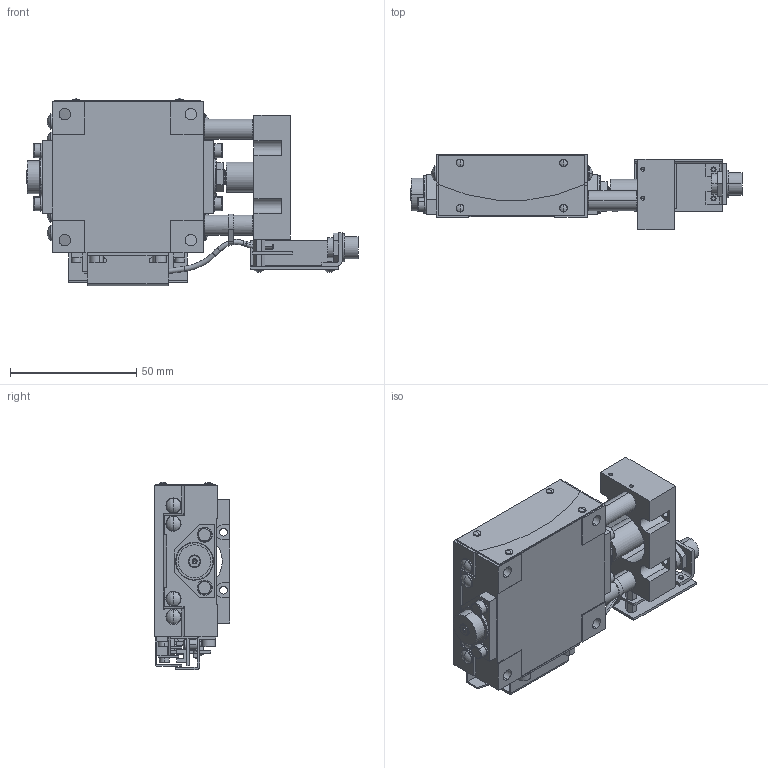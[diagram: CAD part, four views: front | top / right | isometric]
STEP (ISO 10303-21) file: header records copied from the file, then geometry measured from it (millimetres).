
FILE_DESCRIPTION (( 'STEP AP203' ), '1' );
FILE_NAME ('KGB06050MV-LP28.STEP', '2024-03-25T09:14:43', ( '' ), ( '' ), 'SwSTEP 2.0', 'SolidWorks 2017', '' );
FILE_SCHEMA (( 'CONFIG_CONTROL_DESIGN' ));
Length unit declared in the file: millimetre
Products named in the file (6): KGB-BASE-06050-L; KGB-60-P28_CADENAS; 60-M-6-L; KGB06050MV-LP28; KGB-TOP-06050-L; 60-P28_C
Assembly tree (5 placements, depth 2):
  KGB06050MV-LP28
    KGB-BASE-06050-L
    KGB-TOP-06050-L
    KGB-60-P28_CADENAS
    60-M-6-L
    60-P28_C
Bounding box: 131.7 x 30 x 74.3 mm (x, y, z)
Volume: 112053.1 mm3; surface area: 44241 mm2
Topology: 5 solids, 31 shells, 881 faces, 2101 edges, 1353 vertices
Faces by surface type: plane 368, cylinder 353, cone 80, sphere 36, torus 36, bspline 8
Entity records: 26971 total; most frequent: CARTESIAN_POINT 5121, DIRECTION 4759, ORIENTED_EDGE 4146, EDGE_CURVE 2073, AXIS2_PLACEMENT_3D 1839, VERTEX_POINT 1353, LINE 1081, VECTOR 1081
